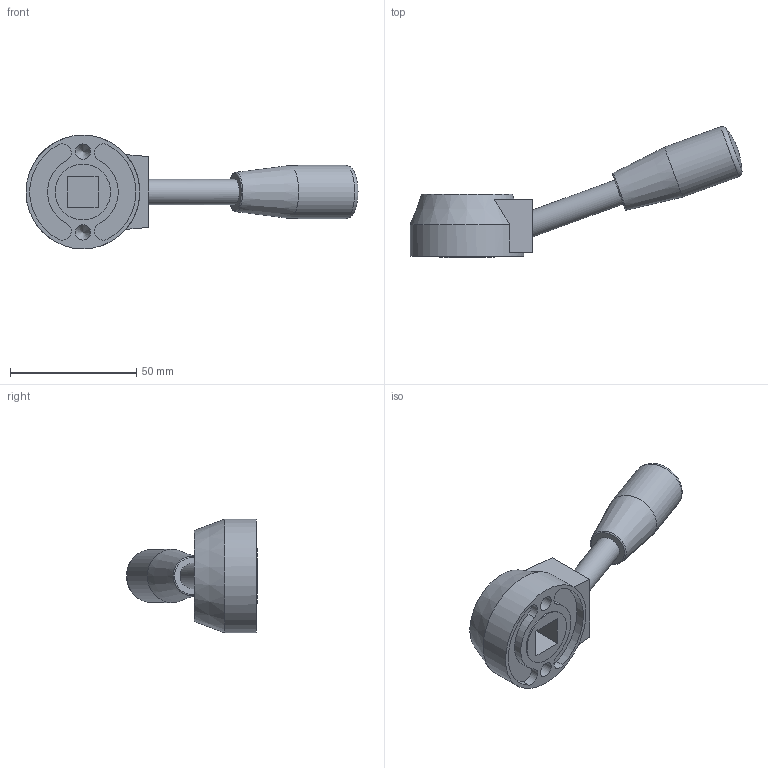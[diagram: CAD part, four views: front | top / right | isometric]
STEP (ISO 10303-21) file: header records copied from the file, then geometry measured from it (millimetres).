
FILE_DESCRIPTION( ( 'STEP AP203' ), '1' );
FILE_NAME( 'C:/Temp/Ganter_Step_05_03_2020/data/2_1/gn_512/gn_512_v/Control lever GN 512-45-V12.stp', '2020-03-05T11:51:43', ( 'License CC BY-ND 4.0' ), ( 'CADENAS' ), ' ', 'PARTsolutions', ' ' );
FILE_SCHEMA( ( 'CONFIG_CONTROL_DESIGN' ) );
Length unit declared in the file: millimetre
Products named in the file (1): _Control lever GN 512-45-V12
Bounding box: 131.34 x 51.82 x 45 mm (x, y, z)
Volume: 50725.3 mm3; surface area: 13663.9 mm2
Topology: 1 solids, 1 shells, 39 faces, 88 edges, 57 vertices
Faces by surface type: plane 17, cylinder 15, cone 4, torus 2, sphere 1
Full cylindrical faces by diameter (mm): 6 x2, 10 x1, 21 x1, 22 x1, 25 x1, 45 x1
Entity records: 1040 total; most frequent: DIRECTION 182, CARTESIAN_POINT 176, ORIENTED_EDGE 136, AXIS2_PLACEMENT_3D 76, EDGE_CURVE 68, EDGE_LOOP 59, VERTEX_POINT 54, FACE_OUTER_BOUND 48
